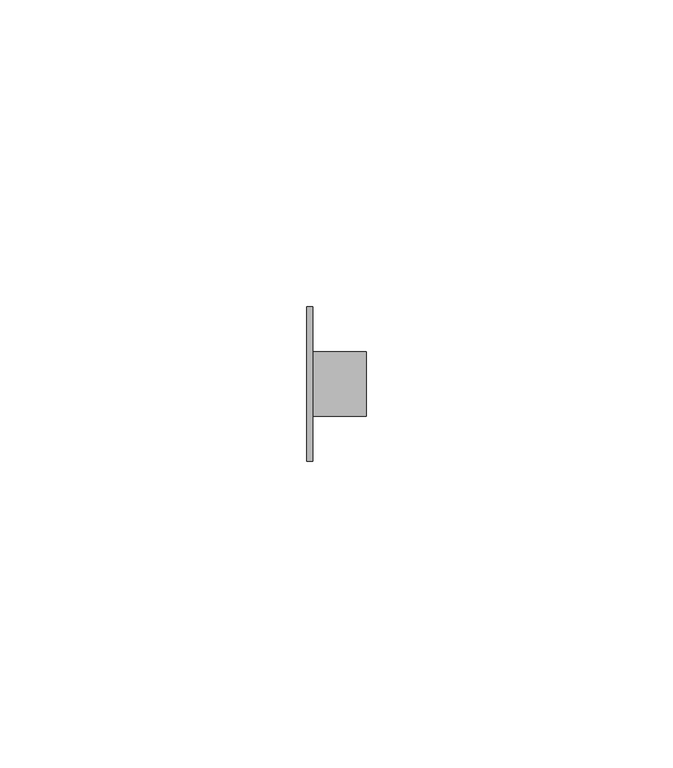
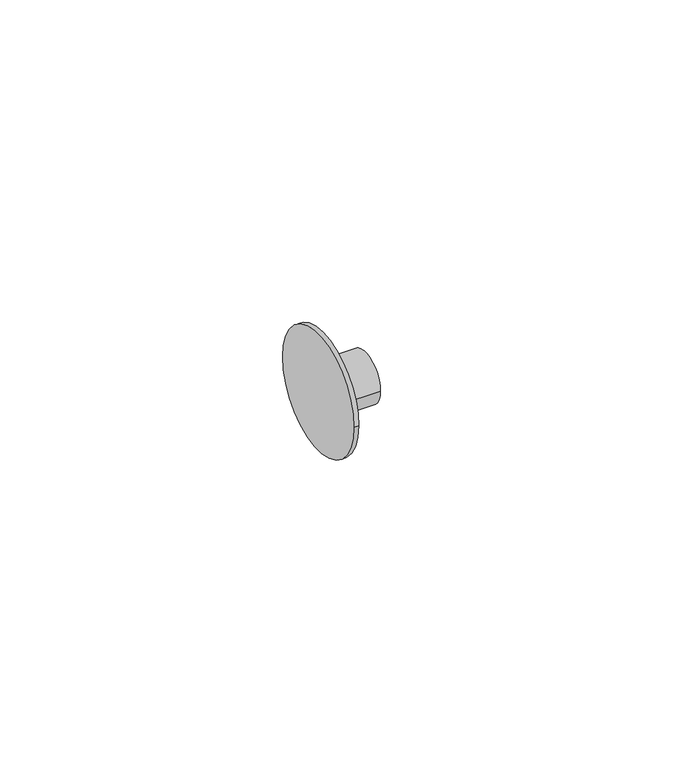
"""IFC4 building model written with IfcOpenShell, lengths in millimetres: pipe fitting geometry, Bucha de redução reta - Soldada - CU : Padrão."""

from ifc_helpers import new_model, si_unit, frame, origin, place, context, project, spatial, circle_curve, source, transform, mapped, element, save
from ifc_brep_helpers import plane_surface, cylinder_surface, advanced_brep


def pipe_fitting_e567efff(model_context):
    return source(origin(), model_context, "Body", "AdvancedBrep", [
        advanced_brep(
        [(0.0, -12.6, 0.0), (0.0, 12.6, 0.0), (1.0, -12.6, 0.0), (1.0, 12.6, 0.0), (1.0, -5.2552, 0.0), (1.0, 5.2552, 0.0), (9.6744, -5.2552, 0.0), (9.6744, 5.2552, 0.0)],
        [
            (0, 1, circle_curve(frame((0.0, 0.0, 0.0), z_axis=(-1.0, 0.0, 0.0), x_axis=(0.0, 1.0, 0.0)), 12.6)),
            (1, 0, circle_curve(frame((0.0, 0.0, 0.0), z_axis=(-1.0, 0.0, 0.0), x_axis=(0.0, 1.0, 0.0)), 12.6)),
            (2, 3, circle_curve(frame((1.0, 0.0, 0.0), z_axis=(1.0, 0.0, 0.0), x_axis=(0.0, 1.0, 0.0)), 12.6)),
            (3, 2, circle_curve(frame((1.0, 0.0, 0.0), z_axis=(1.0, 0.0, 0.0), x_axis=(0.0, 1.0, 0.0)), 12.6)),
            (4, 5, circle_curve(frame((1.0, 0.0, 0.0), z_axis=(-1.0, 0.0, 0.0), x_axis=(0.0, 1.0, 0.0)), 5.2552)),
            (5, 4, circle_curve(frame((1.0, 0.0, 0.0), z_axis=(-1.0, 0.0, 0.0), x_axis=(0.0, 1.0, 0.0)), 5.2552)),
            (0, 2),
            (3, 1),
            (6, 7, circle_curve(frame((9.6744, 0.0, 0.0), z_axis=(1.0, 0.0, 0.0), x_axis=(0.0, 1.0, 0.0)), 5.2552)),
            (7, 6, circle_curve(frame((9.6744, 0.0, 0.0), z_axis=(1.0, 0.0, 0.0), x_axis=(0.0, 1.0, 0.0)), 5.2552)),
            (7, 5),
            (4, 6),
        ],
        [
            plane_surface(frame((0.0, 0.0, 0.0), z_axis=(-1.0, 0.0, 0.0), x_axis=(0.0, 0.0, 1.0))),
            plane_surface(frame((1.0, 0.0, 0.0), z_axis=(1.0, 0.0, 0.0), x_axis=(0.0, 0.0, 1.0))),
            cylinder_surface(frame((0.0, 0.0, 0.0), z_axis=(-1.0, 0.0, 0.0), x_axis=(0.0, 1.0, 0.0)), 12.6),
            plane_surface(frame((9.6744, 0.0, 0.0), z_axis=(1.0, 0.0, 0.0), x_axis=(0.0, 0.0, 1.0))),
            cylinder_surface(frame((1.0, 0.0, 0.0), z_axis=(-1.0, 0.0, 0.0), x_axis=(0.0, 1.0, 0.0)), 5.2552),
        ],
        [
            (0, [[1, 2]]),
            (1, [[3, 4], [5, 6]]),
            (2, [[-1, 7, -4, 8]]),
            (2, [[-2, -8, -3, -7]]),
            (3, [[9, 10]]),
            (4, [[-10, 11, -5, 12]]),
            (4, [[-9, -12, -6, -11]]),
        ],
    ),
    ])


if __name__ == "__main__":
    model = new_model("IFC4")
    model_context = context("Model", 3, world=origin())
    ifc_project = project(units=[si_unit("LENGTHUNIT", "METRE", prefix="MILLI")], contexts=[model_context])
    site = spatial("IfcSite", under=ifc_project)
    building = spatial("IfcBuilding", under=site)
    placement = place(None, origin())
    pipe_fitting_shape = pipe_fitting_e567efff(model_context)
    element("IfcPipeFitting", 1, ObjectType="Bucha de redução reta - Soldada - CU : Padrão", at=placement, inside=building, context=model_context, shape_type="MappedRepresentation", body=[
        mapped(pipe_fitting_shape, transform((0.0, 0.0, 0.0), x_axis=(1.0, 0.0, 0.0), y_axis=(0.0, 1.0, 0.0), z_axis=(0.0, 0.0, 1.0))),
    ])
    save(model, "model.ifc")
